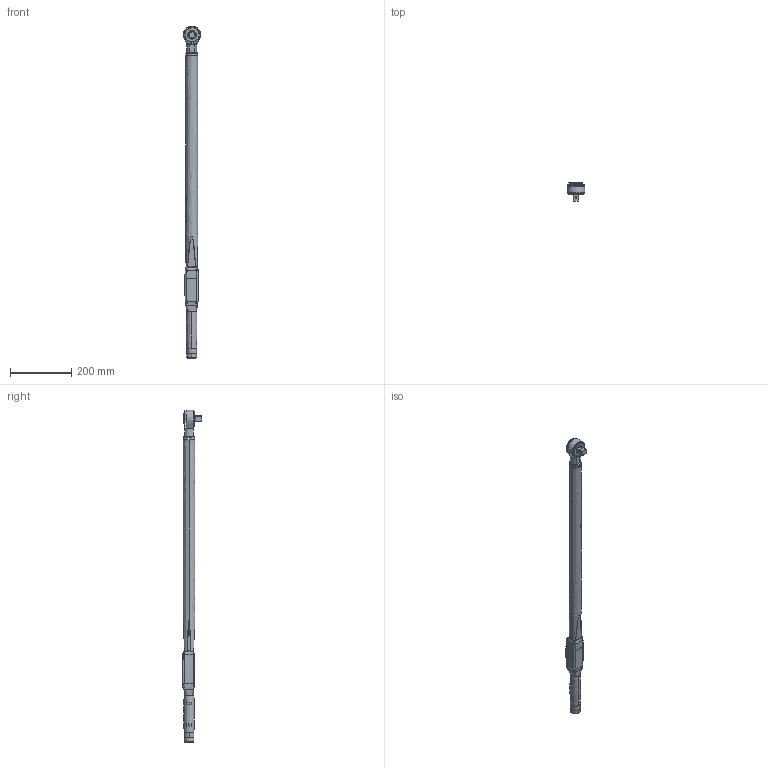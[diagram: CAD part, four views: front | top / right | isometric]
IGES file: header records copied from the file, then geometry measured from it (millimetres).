
Start section:  PTC IGES file: 6159352130_dim.igs
Global section: file name: 6159352130_dim.igs; native system: Creo Parametric by PTC Inc.; preprocessor: 2021072; author: S00000450; organization: Unknown; date: 20210628.090317; units: millimetre
Bounding box: 57.26 x 63.55 x 1088.42 mm (x, y, z)
Surface area: 149115.6 mm2 (no closed solid volume)
Topology: 0 solids, 0 shells, 381 faces, 2224 edges, 2224 vertices
Faces by surface type: bspline 280, revolution 93, extrusion 8
